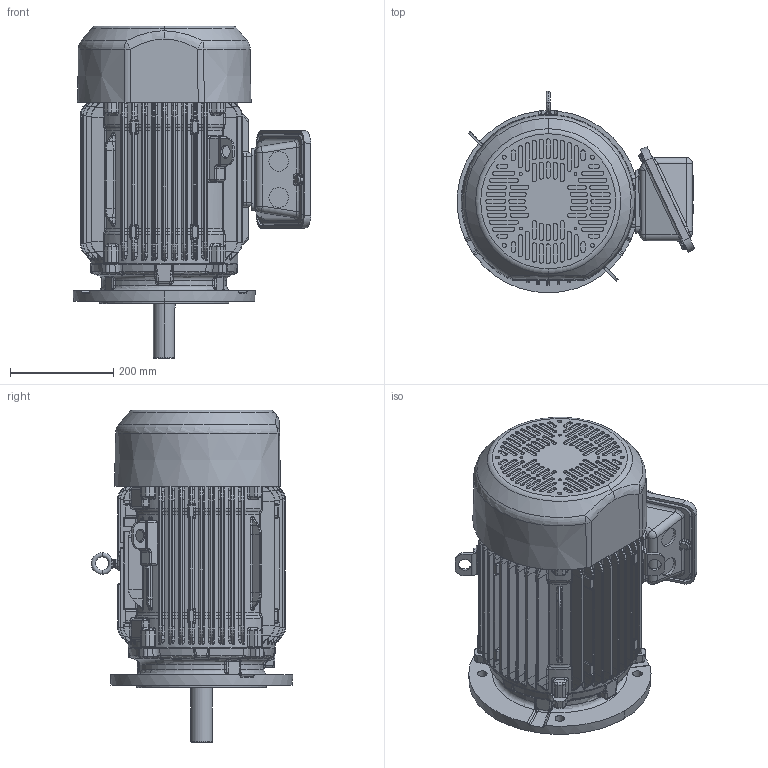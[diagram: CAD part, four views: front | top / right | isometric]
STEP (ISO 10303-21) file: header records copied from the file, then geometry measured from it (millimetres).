
FILE_DESCRIPTION((''),'2;1');
FILE_NAME('160_B5_ASM_ASM','2020-09-08T17:14:43',('EMD2341'),('Nidec Motor Corporation'),'CREO PARAMETRIC BY PTC INC, 2019080','CREO PARAMETRIC BY PTC INC, 2019080','');
FILE_SCHEMA(('CONFIG_CONTROL_DESIGN'));
Length unit declared in the file: inch
Products named in the file (11): 250_FOOTLESS_FRAME; 0133167; 250_CAST_GSK_OBB; 160_OBB_IEC; 250_CAST_GSK_OBC; 250_CAST_OBC; 250_STL_FCVR; 160_B5_BKT; 160_SHA; 2005476; 160_B5_ASM_ASM
Assembly tree (11 placements, depth 2):
  160_B5_ASM_ASM
    250_FOOTLESS_FRAME
    0133167
    250_CAST_GSK_OBB
    160_OBB_IEC
    250_CAST_GSK_OBC
    250_CAST_OBC
    250_STL_FCVR
    160_B5_BKT
    160_SHA
    2005476  x2
Bounding box: 458.89 x 389.58 x 641.73 mm (x, y, z)
Volume: 40710328.3 mm3; surface area: 1783919.7 mm2
Topology: 11 solids, 12 shells, 4992 faces, 11398 edges, 6535 vertices
Faces by surface type: bspline 2108, cylinder 1149, plane 971, extrusion 322, torus 248, sphere 134, cone 60
Entity records: 223218 total; most frequent: CARTESIAN_POINT 126433, ORIENTED_EDGE 22676, DIRECTION 15996, EDGE_CURVE 11340, VERTEX_POINT 6499, AXIS2_PLACEMENT_3D 6030, EDGE_LOOP 5097, FACE_OUTER_BOUND 4968
